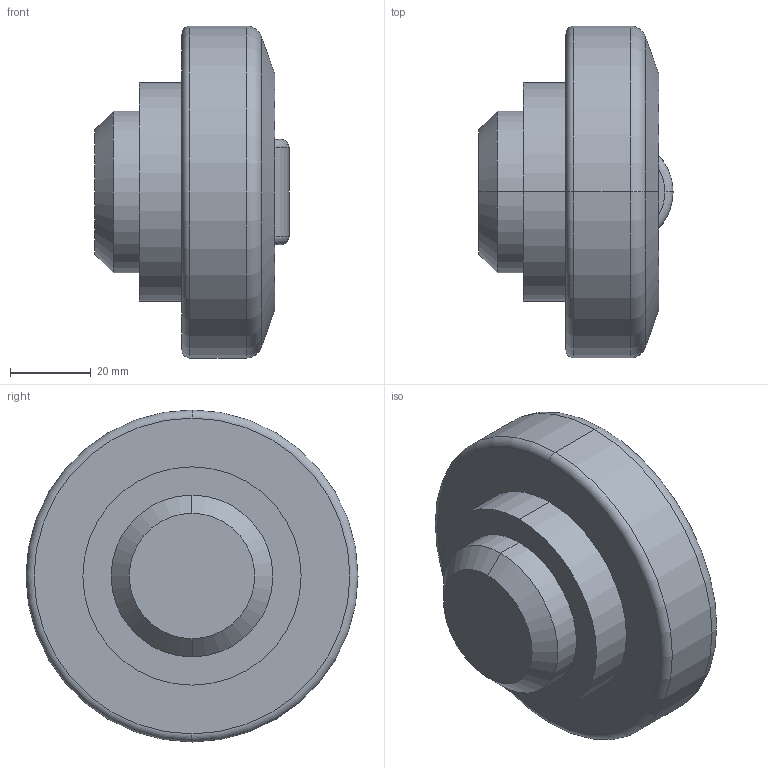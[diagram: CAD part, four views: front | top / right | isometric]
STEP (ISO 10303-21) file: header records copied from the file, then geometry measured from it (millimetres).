
FILE_DESCRIPTION (( 'STEP AP214' ), '1' );
FILE_NAME ('3D 4.0456 PR.STEP', '2013-12-09T09:10:43', ( 'usuario' ), ( 'Hewlett-Packard Company' ), 'SwSTEP 2.0', 'SolidWorks 2017', '' );
FILE_SCHEMA (( 'AUTOMOTIVE_DESIGN' ));
Length unit declared in the file: millimetre
Products named in the file (1): 3D  4.0456 PR
Bounding box: 48 x 82.1 x 82.1 mm (x, y, z)
Volume: 152929.4 mm3; surface area: 18064.2 mm2
Topology: 1 solids, 1 shells, 25 faces, 52 edges, 32 vertices
Faces by surface type: torus 8, cylinder 7, plane 6, cone 4
Entity records: 758 total; most frequent: CARTESIAN_POINT 166, DIRECTION 134, ORIENTED_EDGE 104, AXIS2_PLACEMENT_3D 60, EDGE_CURVE 52, CIRCLE 34, VERTEX_POINT 32, EDGE_LOOP 28
